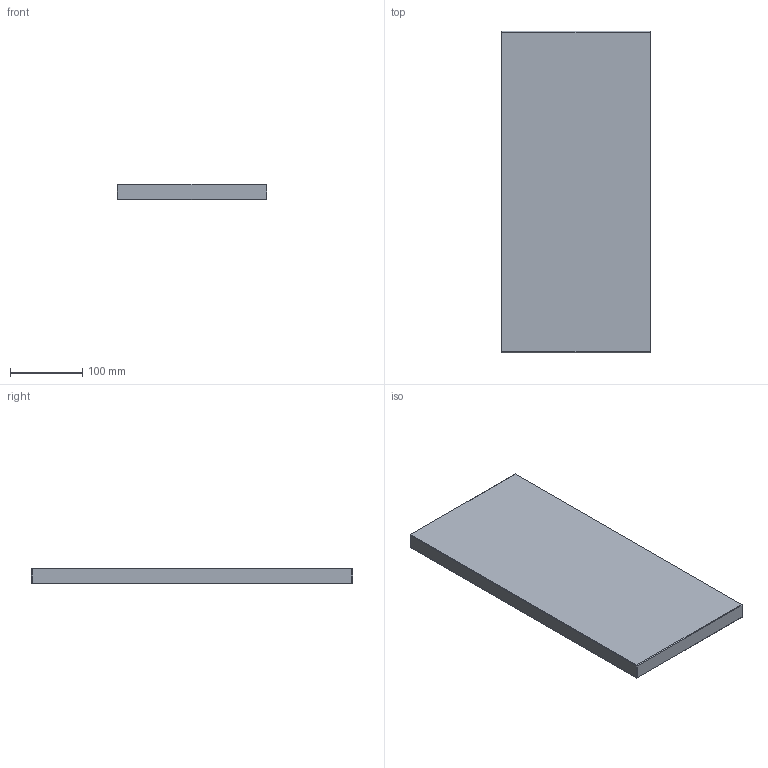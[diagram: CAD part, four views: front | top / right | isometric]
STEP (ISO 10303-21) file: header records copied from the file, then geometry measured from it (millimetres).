
FILE_DESCRIPTION (( 'STEP AP214' ), '1' );
FILE_NAME ('CPE-P-296x446x22.STEP', '2021-03-25T13:46:05', ( '' ), ( '' ), 'SwSTEP 2.0', 'SolidWorks 2018', '' );
FILE_SCHEMA (( 'AUTOMOTIVE_DESIGN' ));
Length unit declared in the file: millimetre
Products named in the file (1): CPE-P-296x446x22
Bounding box: 208 x 446 x 22 mm (x, y, z)
Volume: 2039549.3 mm3; surface area: 212725 mm2
Topology: 1 solids, 1 shells, 26 faces, 48 edges, 24 vertices
Faces by surface type: plane 26
Entity records: 634 total; most frequent: DIRECTION 102, CARTESIAN_POINT 99, ORIENTED_EDGE 96, LINE 48, VECTOR 48, EDGE_CURVE 48, AXIS2_PLACEMENT_3D 27, PLANE 26
